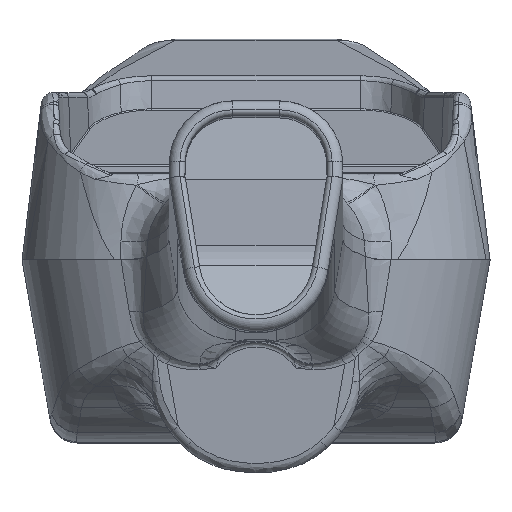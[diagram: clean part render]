
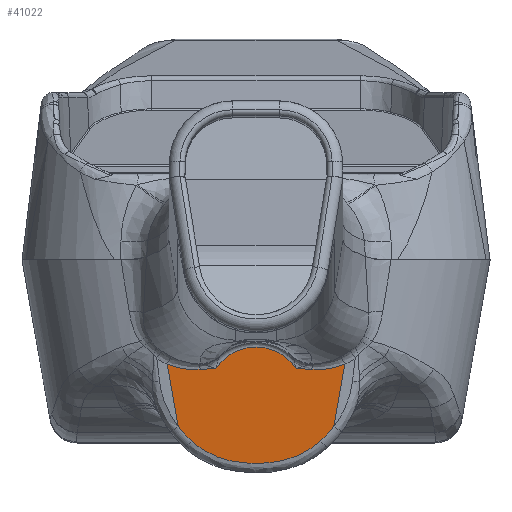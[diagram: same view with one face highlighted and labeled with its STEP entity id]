
A CAD part, top view. The second image highlights one B-rep face of the part: STEP entity #41022.
In plain terms, the highlighted planar face has unit normal (0, -0.104, 0.995).
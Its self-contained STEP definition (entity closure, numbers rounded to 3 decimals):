
#34859=CARTESIAN_POINT('',(-7.593,-20.536,
33.175));
#34860=CARTESIAN_POINT('',(-7.835,-20.548,
33.173));
#34861=CARTESIAN_POINT('',(-8.322,-20.573,
33.171));
#34862=CARTESIAN_POINT('',(-9.062,-20.615,
33.166));
#34863=CARTESIAN_POINT('',(-9.804,-20.661,
33.161));
#34864=CARTESIAN_POINT('',(-10.302,-20.694,
33.158));
#34865=CARTESIAN_POINT('',(-10.552,-20.711,
33.156));
#34881=CARTESIAN_POINT('',(10.552,-20.711,
33.156));
#34882=CARTESIAN_POINT('',(10.863,-20.732,
33.154));
#34883=CARTESIAN_POINT('',(11.483,-20.754,
33.152));
#34884=CARTESIAN_POINT('',(12.407,-20.728,
33.154));
#34885=CARTESIAN_POINT('',(13.319,-20.643,
33.163));
#34886=CARTESIAN_POINT('',(14.214,-20.502,
33.178));
#34887=CARTESIAN_POINT('',(15.086,-20.306,
33.199));
#34888=CARTESIAN_POINT('',(15.932,-20.057,
33.225));
#34889=CARTESIAN_POINT('',(16.474,-19.858,
33.246));
#34890=CARTESIAN_POINT('',(16.74,-19.75,
33.257));
#34892=DIRECTION('',(-0.173,-0.98,-0.103));
#34893=VECTOR('',#34892,11.948);
#34894=CARTESIAN_POINT('',(16.74,-19.75,
33.257));
#34895=LINE('',#34894,#34893);
#34896=CARTESIAN_POINT('',(0.,-20.761,33.151));
#34897=DIRECTION('',(0.,0.105,-0.995));
#34898=DIRECTION('',(0.807,-0.588,-0.062));
#34899=AXIS2_PLACEMENT_3D('',#34896,#34897,#34898);
#34901=CARTESIAN_POINT('',(12.197,-34.187,
31.74));
#34902=CARTESIAN_POINT('',(11.516,-34.798,
31.676));
#34903=CARTESIAN_POINT('',(10.081,-35.877,
31.562));
#34904=CARTESIAN_POINT('',(7.846,-37.06,
31.438));
#34905=CARTESIAN_POINT('',(5.23,-37.945,
31.345));
#34906=CARTESIAN_POINT('',(2.404,-38.38,
31.299));
#34907=CARTESIAN_POINT('',(0.,-38.461,
31.291));
#34908=CARTESIAN_POINT('',(-2.404,-38.38,
31.299));
#34909=CARTESIAN_POINT('',(-5.23,-37.945,
31.345));
#34910=CARTESIAN_POINT('',(-7.846,-37.06,
31.438));
#34911=CARTESIAN_POINT('',(-10.081,-35.877,
31.562));
#34912=CARTESIAN_POINT('',(-11.516,-34.798,
31.676));
#34913=CARTESIAN_POINT('',(-12.197,-34.187,
31.74));
#34915=CARTESIAN_POINT('',(0.,-20.761,33.151));
#34916=DIRECTION('',(0.,0.105,-0.995));
#34917=DIRECTION('',(-0.67,-0.738,-0.078));
#34918=AXIS2_PLACEMENT_3D('',#34915,#34916,#34917);
#34920=DIRECTION('',(-0.173,0.98,0.103));
#34921=VECTOR('',#34920,11.948);
#34922=CARTESIAN_POINT('',(-14.676,-31.454,
32.027));
#34923=LINE('',#34922,#34921);
#34924=CARTESIAN_POINT('',(-16.74,-19.75,
33.257));
#34925=CARTESIAN_POINT('',(-16.474,-19.858,
33.246));
#34926=CARTESIAN_POINT('',(-15.932,-20.057,
33.225));
#34927=CARTESIAN_POINT('',(-15.086,-20.306,
33.199));
#34928=CARTESIAN_POINT('',(-14.214,-20.502,
33.178));
#34929=CARTESIAN_POINT('',(-13.319,-20.643,
33.163));
#34930=CARTESIAN_POINT('',(-12.407,-20.728,
33.154));
#34931=CARTESIAN_POINT('',(-11.483,-20.754,
33.152));
#34932=CARTESIAN_POINT('',(-10.863,-20.732,
33.154));
#34933=CARTESIAN_POINT('',(-10.552,-20.711,
33.156));
#34935=CARTESIAN_POINT('',(0.,-25.553,32.647));
#34936=DIRECTION('',(0.,-0.105,0.995));
#34937=DIRECTION('',(0.833,0.55,0.058));
#34938=AXIS2_PLACEMENT_3D('',#34935,#34936,#34937);
#34940=CARTESIAN_POINT('',(10.552,-20.711,
33.156));
#34941=CARTESIAN_POINT('',(10.219,-20.689,
33.159));
#34942=CARTESIAN_POINT('',(9.557,-20.645,
33.163));
#34943=CARTESIAN_POINT('',(8.57,-20.586,
33.169));
#34944=CARTESIAN_POINT('',(7.917,-20.552,
33.173));
#34945=CARTESIAN_POINT('',(7.592,-20.536,
33.175));
#35171=CARTESIAN_POINT('',(-14.676,-31.454,
32.027));
#35548=CARTESIAN_POINT('',(16.74,-19.75,
33.257));
#39787=CARTESIAN_POINT('',(10.552,-20.711,
33.156));
#39789=VERTEX_POINT('',#39787);
#40170=VERTEX_POINT('',#35171);
#40176=CARTESIAN_POINT('',(-12.197,-34.187,
31.74));
#40177=VERTEX_POINT('',#40176);
#40179=VERTEX_POINT('',#34901);
#40182=CARTESIAN_POINT('',(14.677,-31.454,
32.027));
#40183=VERTEX_POINT('',#40182);
#40293=VERTEX_POINT('',#35548);
#40295=VERTEX_POINT('',#34924);
#40296=VERTEX_POINT('',#34933);
#40329=VERTEX_POINT('',#34945);
#40330=VERTEX_POINT('',#34859);
#40997=CARTESIAN_POINT('',(-47.383,0.,35.333));
#40998=DIRECTION('',(0.,-0.105,0.995));
#40999=DIRECTION('',(1.,0.,0.));
#41000=AXIS2_PLACEMENT_3D('',#40997,#40998,#40999);
#41001=PLANE('',#41000);
#41003=ORIENTED_EDGE('',*,*,#41002,.F.);
#41005=ORIENTED_EDGE('',*,*,#41004,.T.);
#41007=ORIENTED_EDGE('',*,*,#41006,.T.);
#41009=ORIENTED_EDGE('',*,*,#41008,.T.);
#41011=ORIENTED_EDGE('',*,*,#41010,.T.);
#41013=ORIENTED_EDGE('',*,*,#41012,.T.);
#41015=ORIENTED_EDGE('',*,*,#41014,.T.);
#41017=ORIENTED_EDGE('',*,*,#41016,.T.);
#41018=ORIENTED_EDGE('',*,*,#40988,.F.);
#41019=ORIENTED_EDGE('',*,*,#40910,.F.);
#41020=EDGE_LOOP('',(#41003,#41005,#41007,#41009,#41011,#41013,#41015,#41017,
#41018,#41019));
#41021=FACE_OUTER_BOUND('',#41020,.F.);
#41022=ADVANCED_FACE('',(#41021),#41001,.T.);
#34866=B_SPLINE_CURVE_WITH_KNOTS('',3,(#34859,#34860,#34861,#34862,#34863,
#34864,#34865),.UNSPECIFIED.,.F.,.F.,(4,1,1,1,4),(0.,0.25,0.5,0.75,
1.),.UNSPECIFIED.);
#34891=B_SPLINE_CURVE_WITH_KNOTS('',3,(#34881,#34882,#34883,#34884,#34885,
#34886,#34887,#34888,#34889,#34890),.UNSPECIFIED.,.F.,.F.,(4,1,1,1,1,1,1,4),(
0.,0.143,0.286,0.429,0.571,
0.714,0.857,1.),.UNSPECIFIED.);
#34900=CIRCLE('',#34899,18.194);
#34914=B_SPLINE_CURVE_WITH_KNOTS('',3,(#34901,#34902,#34903,#34904,#34905,
#34906,#34907,#34908,#34909,#34910,#34911,#34912,#34913),.UNSPECIFIED.,.F.,.F.,(
4,1,1,1,1,1,1,1,1,1,4),(0.,0.1,0.2,0.3,0.4,0.5,0.6,0.7,0.8,
0.9,1.),.UNSPECIFIED.);
#34919=CIRCLE('',#34918,18.194);
#34934=B_SPLINE_CURVE_WITH_KNOTS('',3,(#34924,#34925,#34926,#34927,#34928,
#34929,#34930,#34931,#34932,#34933),.UNSPECIFIED.,.F.,.F.,(4,1,1,1,1,1,1,4),(
0.,0.143,0.286,0.429,0.571,
0.714,0.857,1.),.UNSPECIFIED.);
#34939=CIRCLE('',#34938,9.115);
#34946=B_SPLINE_CURVE_WITH_KNOTS('',3,(#34940,#34941,#34942,#34943,#34944,
#34945),.UNSPECIFIED.,.F.,.F.,(4,1,1,4),(0.,0.333,
0.667,1.),.UNSPECIFIED.);
#40910=EDGE_CURVE('',#40329,#40330,#34939,.T.);
#40988=EDGE_CURVE('',#40330,#40296,#34866,.T.);
#41002=EDGE_CURVE('',#39789,#40329,#34946,.T.);
#41004=EDGE_CURVE('',#39789,#40293,#34891,.T.);
#41006=EDGE_CURVE('',#40293,#40183,#34895,.T.);
#41008=EDGE_CURVE('',#40183,#40179,#34900,.T.);
#41010=EDGE_CURVE('',#40179,#40177,#34914,.T.);
#41012=EDGE_CURVE('',#40177,#40170,#34919,.T.);
#41014=EDGE_CURVE('',#40170,#40295,#34923,.T.);
#41016=EDGE_CURVE('',#40295,#40296,#34934,.T.);
